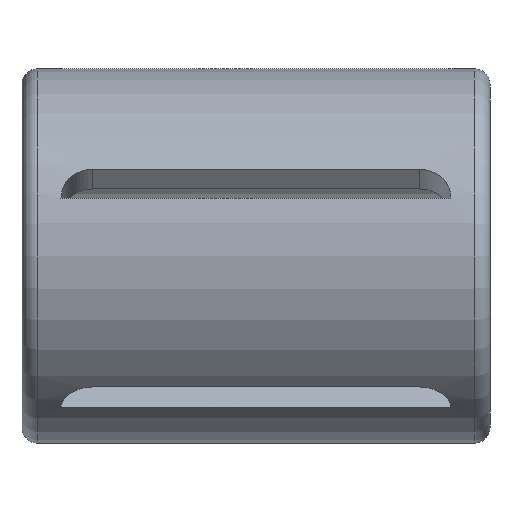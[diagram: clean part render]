
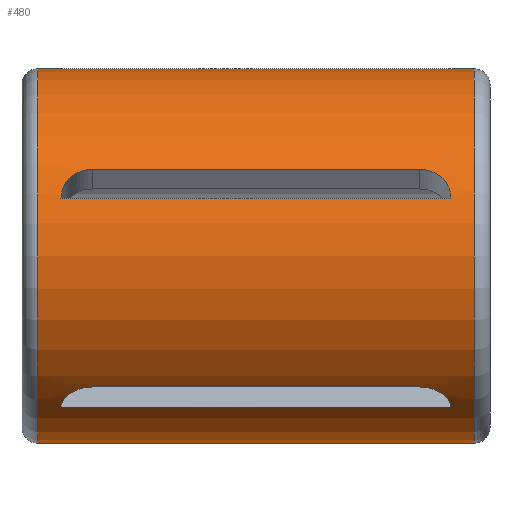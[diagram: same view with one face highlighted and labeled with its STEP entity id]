
A CAD part, front view. The second image highlights one B-rep face of the part: STEP entity #480.
In plain terms, the highlighted cylindrical face has radius 12 mm (diameter 24 mm), a full revolution.
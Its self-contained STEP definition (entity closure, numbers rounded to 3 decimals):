
#34=CIRCLE('',#520,12.);
#35=CIRCLE('',#521,12.);
#40=LINE('',#666,#80);
#41=LINE('',#674,#81);
#42=LINE('',#682,#82);
#43=LINE('',#690,#83);
#44=LINE('',#702,#84);
#45=LINE('',#710,#85);
#46=LINE('',#718,#86);
#47=LINE('',#726,#87);
#48=LINE('',#734,#88);
#49=LINE('',#742,#89);
#80=VECTOR('',#555,1000.);
#81=VECTOR('',#556,1000.);
#82=VECTOR('',#557,1000.);
#83=VECTOR('',#558,1000.);
#84=VECTOR('',#563,1000.);
#85=VECTOR('',#564,1000.);
#86=VECTOR('',#565,1000.);
#87=VECTOR('',#566,1000.);
#88=VECTOR('',#567,1000.);
#89=VECTOR('',#568,1000.);
#120=ORIENTED_EDGE('',*,*,#252,.T.);
#121=ORIENTED_EDGE('',*,*,#253,.T.);
#122=ORIENTED_EDGE('',*,*,#254,.T.);
#123=ORIENTED_EDGE('',*,*,#255,.T.);
#124=ORIENTED_EDGE('',*,*,#256,.T.);
#125=ORIENTED_EDGE('',*,*,#257,.T.);
#126=ORIENTED_EDGE('',*,*,#258,.T.);
#127=ORIENTED_EDGE('',*,*,#259,.T.);
#128=ORIENTED_EDGE('',*,*,#260,.T.);
#129=ORIENTED_EDGE('',*,*,#261,.T.);
#130=ORIENTED_EDGE('',*,*,#262,.T.);
#131=ORIENTED_EDGE('',*,*,#263,.T.);
#132=ORIENTED_EDGE('',*,*,#264,.T.);
#133=ORIENTED_EDGE('',*,*,#265,.T.);
#134=ORIENTED_EDGE('',*,*,#266,.T.);
#135=ORIENTED_EDGE('',*,*,#267,.T.);
#136=ORIENTED_EDGE('',*,*,#268,.T.);
#137=ORIENTED_EDGE('',*,*,#269,.T.);
#138=ORIENTED_EDGE('',*,*,#270,.T.);
#139=ORIENTED_EDGE('',*,*,#271,.T.);
#140=ORIENTED_EDGE('',*,*,#272,.T.);
#141=ORIENTED_EDGE('',*,*,#273,.T.);
#252=EDGE_CURVE('',#318,#319,#364,.T.);
#253=EDGE_CURVE('',#319,#320,#40,.F.);
#254=EDGE_CURVE('',#320,#321,#365,.T.);
#255=EDGE_CURVE('',#321,#318,#41,.T.);
#256=EDGE_CURVE('',#322,#323,#366,.T.);
#257=EDGE_CURVE('',#323,#324,#42,.F.);
#258=EDGE_CURVE('',#324,#325,#367,.T.);
#259=EDGE_CURVE('',#325,#322,#43,.T.);
#260=EDGE_CURVE('',#326,#326,#34,.T.);
#261=EDGE_CURVE('',#327,#327,#35,.F.);
#262=EDGE_CURVE('',#328,#329,#368,.T.);
#263=EDGE_CURVE('',#329,#330,#44,.F.);
#264=EDGE_CURVE('',#330,#331,#369,.T.);
#265=EDGE_CURVE('',#331,#328,#45,.T.);
#266=EDGE_CURVE('',#332,#333,#370,.T.);
#267=EDGE_CURVE('',#333,#334,#46,.F.);
#268=EDGE_CURVE('',#334,#335,#371,.T.);
#269=EDGE_CURVE('',#335,#332,#47,.T.);
#270=EDGE_CURVE('',#336,#337,#372,.T.);
#271=EDGE_CURVE('',#337,#338,#48,.F.);
#272=EDGE_CURVE('',#338,#339,#373,.T.);
#273=EDGE_CURVE('',#339,#336,#49,.T.);
#318=VERTEX_POINT('',#664);
#319=VERTEX_POINT('',#665);
#320=VERTEX_POINT('',#667);
#321=VERTEX_POINT('',#673);
#322=VERTEX_POINT('',#680);
#323=VERTEX_POINT('',#681);
#324=VERTEX_POINT('',#683);
#325=VERTEX_POINT('',#689);
#326=VERTEX_POINT('',#692);
#327=VERTEX_POINT('',#694);
#328=VERTEX_POINT('',#700);
#329=VERTEX_POINT('',#701);
#330=VERTEX_POINT('',#703);
#331=VERTEX_POINT('',#709);
#332=VERTEX_POINT('',#716);
#333=VERTEX_POINT('',#717);
#334=VERTEX_POINT('',#719);
#335=VERTEX_POINT('',#725);
#336=VERTEX_POINT('',#732);
#337=VERTEX_POINT('',#733);
#338=VERTEX_POINT('',#735);
#339=VERTEX_POINT('',#741);
#364=B_SPLINE_CURVE_WITH_KNOTS('',3,(#659,#660,#661,#662,#663),
 .UNSPECIFIED.,.F.,.F.,(4,1,4),(0.,0.002,
0.003),.UNSPECIFIED.);
#365=B_SPLINE_CURVE_WITH_KNOTS('',3,(#668,#669,#670,#671,#672),
 .UNSPECIFIED.,.F.,.F.,(4,1,4),(0.,0.002,0.003),
 .UNSPECIFIED.);
#366=B_SPLINE_CURVE_WITH_KNOTS('',3,(#675,#676,#677,#678,#679),
 .UNSPECIFIED.,.F.,.F.,(4,1,4),(0.,0.002,
0.003),.UNSPECIFIED.);
#367=B_SPLINE_CURVE_WITH_KNOTS('',3,(#684,#685,#686,#687,#688),
 .UNSPECIFIED.,.F.,.F.,(4,1,4),(0.,0.002,0.003),
 .UNSPECIFIED.);
#368=B_SPLINE_CURVE_WITH_KNOTS('',3,(#695,#696,#697,#698,#699),
 .UNSPECIFIED.,.F.,.F.,(4,1,4),(0.,0.002,
0.003),.UNSPECIFIED.);
#369=B_SPLINE_CURVE_WITH_KNOTS('',3,(#704,#705,#706,#707,#708),
 .UNSPECIFIED.,.F.,.F.,(4,1,4),(0.,0.002,0.003),
 .UNSPECIFIED.);
#370=B_SPLINE_CURVE_WITH_KNOTS('',3,(#711,#712,#713,#714,#715),
 .UNSPECIFIED.,.F.,.F.,(4,1,4),(0.,0.002,0.003),
 .UNSPECIFIED.);
#371=B_SPLINE_CURVE_WITH_KNOTS('',3,(#720,#721,#722,#723,#724),
 .UNSPECIFIED.,.F.,.F.,(4,1,4),(0.,0.002,0.003),
 .UNSPECIFIED.);
#372=B_SPLINE_CURVE_WITH_KNOTS('',3,(#727,#728,#729,#730,#731),
 .UNSPECIFIED.,.F.,.F.,(4,1,4),(0.,0.002,0.003),
 .UNSPECIFIED.);
#373=B_SPLINE_CURVE_WITH_KNOTS('',3,(#736,#737,#738,#739,#740),
 .UNSPECIFIED.,.F.,.F.,(4,1,4),(0.,0.002,0.003),
 .UNSPECIFIED.);
#384=EDGE_LOOP('',(#120,#121,#122,#123));
#385=EDGE_LOOP('',(#124,#125,#126,#127));
#386=EDGE_LOOP('',(#128));
#387=EDGE_LOOP('',(#129));
#388=EDGE_LOOP('',(#130,#131,#132,#133));
#389=EDGE_LOOP('',(#134,#135,#136,#137));
#390=EDGE_LOOP('',(#138,#139,#140,#141));
#426=FACE_BOUND('',#384,.T.);
#427=FACE_BOUND('',#385,.T.);
#428=FACE_BOUND('',#386,.T.);
#429=FACE_BOUND('',#387,.T.);
#430=FACE_BOUND('',#388,.T.);
#431=FACE_BOUND('',#389,.T.);
#432=FACE_BOUND('',#390,.T.);
#468=CYLINDRICAL_SURFACE('',#519,12.);
#480=ADVANCED_FACE('',(#426,#427,#428,#429,#430,#431,#432),#468,.T.);
#519=AXIS2_PLACEMENT_3D('',#658,#553,#554);
#520=AXIS2_PLACEMENT_3D('',#691,#559,#560);
#521=AXIS2_PLACEMENT_3D('',#693,#561,#562);
#553=DIRECTION('',(-1.,0.,0.));
#554=DIRECTION('',(0.,0.,1.));
#555=DIRECTION('',(-1.,0.,0.));
#556=DIRECTION('',(-1.,0.,0.));
#557=DIRECTION('',(-1.,0.,0.));
#558=DIRECTION('',(-1.,0.,0.));
#559=DIRECTION('',(1.,0.,0.));
#560=DIRECTION('',(0.,0.,-1.));
#561=DIRECTION('',(1.,0.,0.));
#562=DIRECTION('',(0.,0.,-1.));
#563=DIRECTION('',(-1.,0.,0.));
#564=DIRECTION('',(-1.,0.,0.));
#565=DIRECTION('',(-1.,0.,0.));
#566=DIRECTION('',(-1.,0.,0.));
#567=DIRECTION('',(-1.,0.,0.));
#568=DIRECTION('',(-1.,0.,0.));
#658=CARTESIAN_POINT('',(15.,0.,0.));
#659=CARTESIAN_POINT('',(-12.5,-7.053,-9.708));
#660=CARTESIAN_POINT('',(-12.5,-7.482,-9.397));
#661=CARTESIAN_POINT('',(-12.065,-8.269,-8.722));
#662=CARTESIAN_POINT('',(-11.029,-8.573,-8.397));
#663=CARTESIAN_POINT('',(-10.5,-8.573,-8.397));
#664=CARTESIAN_POINT('',(-12.5,-7.053,-9.708));
#665=CARTESIAN_POINT('',(-10.5,-8.573,-8.397));
#666=CARTESIAN_POINT('',(15.,-8.573,-8.397));
#667=CARTESIAN_POINT('',(10.5,-8.573,-8.397));
#668=CARTESIAN_POINT('',(10.5,-8.573,-8.397));
#669=CARTESIAN_POINT('',(11.029,-8.573,-8.397));
#670=CARTESIAN_POINT('',(12.063,-8.27,-8.721));
#671=CARTESIAN_POINT('',(12.5,-7.482,-9.397));
#672=CARTESIAN_POINT('',(12.5,-7.053,-9.708));
#673=CARTESIAN_POINT('',(12.5,-7.053,-9.708));
#674=CARTESIAN_POINT('',(15.,-7.053,-9.708));
#675=CARTESIAN_POINT('',(-12.5,11.413,3.708));
#676=CARTESIAN_POINT('',(-12.5,11.576,3.205));
#677=CARTESIAN_POINT('',(-12.065,11.817,2.196));
#678=CARTESIAN_POINT('',(-11.029,11.871,1.754));
#679=CARTESIAN_POINT('',(-10.5,11.871,1.754));
#680=CARTESIAN_POINT('',(-12.5,11.413,3.708));
#681=CARTESIAN_POINT('',(-10.5,11.871,1.754));
#682=CARTESIAN_POINT('',(15.,11.871,1.754));
#683=CARTESIAN_POINT('',(10.5,11.871,1.754));
#684=CARTESIAN_POINT('',(10.5,11.871,1.754));
#685=CARTESIAN_POINT('',(11.029,11.871,1.754));
#686=CARTESIAN_POINT('',(12.063,11.817,2.194));
#687=CARTESIAN_POINT('',(12.5,11.576,3.205));
#688=CARTESIAN_POINT('',(12.5,11.413,3.708));
#689=CARTESIAN_POINT('',(12.5,11.413,3.708));
#690=CARTESIAN_POINT('',(15.,11.413,3.708));
#691=CARTESIAN_POINT('',(-14.,0.,0.));
#692=CARTESIAN_POINT('',(-14.,0.,-12.));
#693=CARTESIAN_POINT('',(14.,0.,0.));
#694=CARTESIAN_POINT('',(14.,0.,-12.));
#695=CARTESIAN_POINT('',(-12.5,0.,12.));
#696=CARTESIAN_POINT('',(-12.5,0.529,12.));
#697=CARTESIAN_POINT('',(-12.065,1.563,11.917));
#698=CARTESIAN_POINT('',(-11.029,2.,11.832));
#699=CARTESIAN_POINT('',(-10.5,2.,11.832));
#700=CARTESIAN_POINT('',(-12.5,0.,12.));
#701=CARTESIAN_POINT('',(-10.5,2.,11.832));
#702=CARTESIAN_POINT('',(15.,2.,11.832));
#703=CARTESIAN_POINT('',(10.5,2.,11.832));
#704=CARTESIAN_POINT('',(10.5,2.,11.832));
#705=CARTESIAN_POINT('',(11.029,2.,11.832));
#706=CARTESIAN_POINT('',(12.063,1.565,11.917));
#707=CARTESIAN_POINT('',(12.5,0.529,12.));
#708=CARTESIAN_POINT('',(12.5,0.,12.));
#709=CARTESIAN_POINT('',(12.5,0.,12.));
#710=CARTESIAN_POINT('',(15.,0.,12.));
#711=CARTESIAN_POINT('',(-12.5,7.053,-9.708));
#712=CARTESIAN_POINT('',(-12.5,6.625,-10.019));
#713=CARTESIAN_POINT('',(-12.065,5.74,-10.56));
#714=CARTESIAN_POINT('',(-11.029,5.337,-10.748));
#715=CARTESIAN_POINT('',(-10.5,5.337,-10.748));
#716=CARTESIAN_POINT('',(-12.5,7.053,-9.708));
#717=CARTESIAN_POINT('',(-10.5,5.337,-10.748));
#718=CARTESIAN_POINT('',(15.,5.337,-10.748));
#719=CARTESIAN_POINT('',(10.5,5.337,-10.748));
#720=CARTESIAN_POINT('',(10.5,5.337,-10.748));
#721=CARTESIAN_POINT('',(11.029,5.337,-10.748));
#722=CARTESIAN_POINT('',(12.063,5.738,-10.56));
#723=CARTESIAN_POINT('',(12.5,6.625,-10.019));
#724=CARTESIAN_POINT('',(12.5,7.053,-9.708));
#725=CARTESIAN_POINT('',(12.5,7.053,-9.708));
#726=CARTESIAN_POINT('',(15.,7.053,-9.708));
#727=CARTESIAN_POINT('',(-12.5,-11.413,3.708));
#728=CARTESIAN_POINT('',(-12.5,-11.249,4.212));
#729=CARTESIAN_POINT('',(-12.065,-10.851,5.169));
#730=CARTESIAN_POINT('',(-11.029,-10.635,5.558));
#731=CARTESIAN_POINT('',(-10.5,-10.635,5.558));
#732=CARTESIAN_POINT('',(-12.5,-11.413,3.708));
#733=CARTESIAN_POINT('',(-10.5,-10.635,5.558));
#734=CARTESIAN_POINT('',(15.,-10.635,5.558));
#735=CARTESIAN_POINT('',(10.5,-10.635,5.558));
#736=CARTESIAN_POINT('',(10.5,-10.635,5.558));
#737=CARTESIAN_POINT('',(11.029,-10.635,5.558));
#738=CARTESIAN_POINT('',(12.063,-10.85,5.171));
#739=CARTESIAN_POINT('',(12.5,-11.249,4.212));
#740=CARTESIAN_POINT('',(12.5,-11.413,3.708));
#741=CARTESIAN_POINT('',(12.5,-11.413,3.708));
#742=CARTESIAN_POINT('',(15.,-11.413,3.708));
